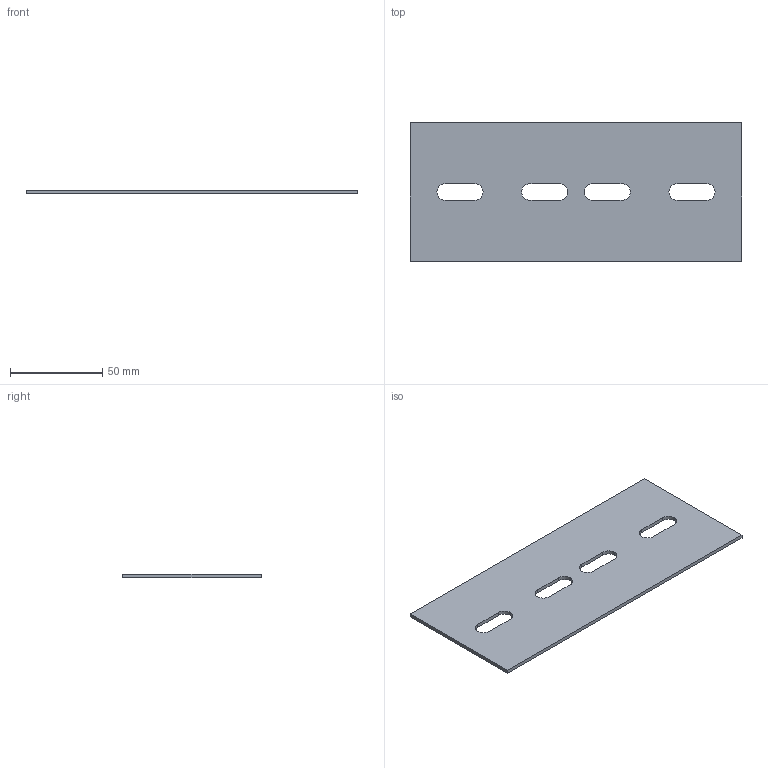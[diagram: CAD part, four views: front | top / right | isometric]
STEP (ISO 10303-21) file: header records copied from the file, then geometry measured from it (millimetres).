
FILE_DESCRIPTION (( 'STEP AP214' ), '1' );
FILE_NAME ('JUFE 100.STEP', '2023-06-28T13:44:09', ( '' ), ( '' ), 'SwSTEP 2.0', 'SolidWorks 2022', '' );
FILE_SCHEMA (( 'AUTOMOTIVE_DESIGN' ));
Length unit declared in the file: millimetre
Products named in the file (1): JUFE 100
Bounding box: 180 x 75 x 2 mm (x, y, z)
Volume: 25339.1 mm3; surface area: 26841.3 mm2
Topology: 1 solids, 1 shells, 26 faces, 72 edges, 48 vertices
Faces by surface type: plane 14, cylinder 12
Entity records: 890 total; most frequent: DIRECTION 150, CARTESIAN_POINT 147, ORIENTED_EDGE 144, EDGE_CURVE 72, AXIS2_PLACEMENT_3D 51, VECTOR 48, VERTEX_POINT 48, LINE 48
